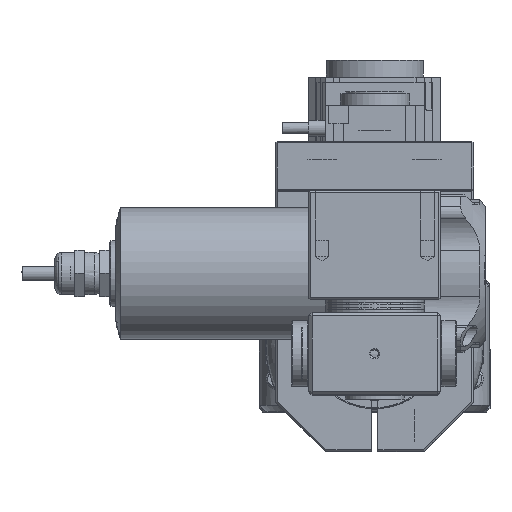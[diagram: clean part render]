
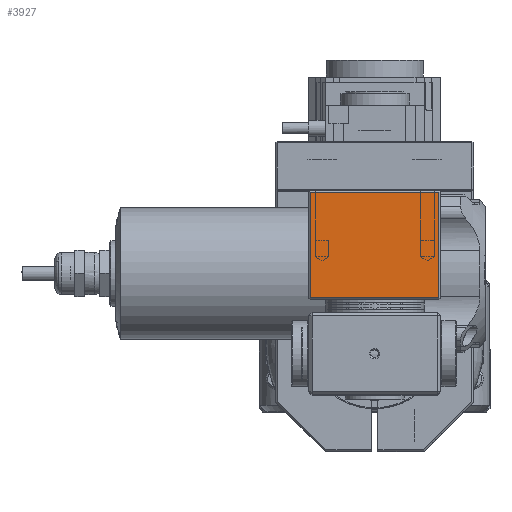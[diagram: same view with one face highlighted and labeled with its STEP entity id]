
A CAD part, top view. The second image highlights one B-rep face of the part: STEP entity #3927.
In plain terms, the highlighted planar face has unit normal (0, 0, 1) as drawn and (1, 0, 0) by its records, which use the part's own axes.
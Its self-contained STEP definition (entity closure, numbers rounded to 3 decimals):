
#3927 = ADVANCED_FACE( '', ( #7667 ), #7668, .F. );
#7667 = FACE_OUTER_BOUND( '', #12523, .T. );
#7668 = PLANE( '', #12524 );
#12523 = EDGE_LOOP( '', ( #22777, #22778, #22779, #22780 ) );
#12524 = AXIS2_PLACEMENT_3D( '', #22781, #22782, #22783 );
#22777 = ORIENTED_EDGE( '', *, *, #25108, .T. );
#22778 = ORIENTED_EDGE( '', *, *, #25737, .T. );
#22779 = ORIENTED_EDGE( '', *, *, #26820, .T. );
#22780 = ORIENTED_EDGE( '', *, *, #27448, .T. );
#22781 = CARTESIAN_POINT( '', ( 20., -20., 33. ) );
#22782 = DIRECTION( '', ( -1., 0., 0. ) );
#22783 = DIRECTION( '', ( 0., 0., 1. ) );
#25108 = EDGE_CURVE( '', #29204, #30669, #30671, .T. );
#25737 = EDGE_CURVE( '', #30669, #31709, #31711, .T. );
#26820 = EDGE_CURVE( '', #31709, #32531, #33318, .T. );
#27448 = EDGE_CURVE( '', #32531, #29204, #34270, .T. );
#29204 = VERTEX_POINT( '', #35295 );
#30669 = VERTEX_POINT( '', #38669 );
#30671 = LINE( '', #38672, #38673 );
#31709 = VERTEX_POINT( '', #42062 );
#31711 = LINE( '', #42065, #42066 );
#32531 = VERTEX_POINT( '', #43891 );
#33318 = LINE( '', #45711, #45712 );
#34270 = LINE( '', #49643, #49644 );
#35295 = CARTESIAN_POINT( '', ( 20., -19.5, 32.5 ) );
#38669 = CARTESIAN_POINT( '', ( 20., -19.5, 0.5 ) );
#38672 = CARTESIAN_POINT( '', ( 20., -19.5, 33. ) );
#38673 = VECTOR( '', #54132, 1000. );
#42062 = CARTESIAN_POINT( '', ( 20., 19.5, 0.5 ) );
#42065 = CARTESIAN_POINT( '', ( 20., -20., 0.5 ) );
#42066 = VECTOR( '', #54799, 1000. );
#43891 = CARTESIAN_POINT( '', ( 20., 19.5, 32.5 ) );
#45711 = CARTESIAN_POINT( '', ( 20., 19.5, 33. ) );
#45712 = VECTOR( '', #55781, 1000. );
#49643 = CARTESIAN_POINT( '', ( 20., -20., 32.5 ) );
#49644 = VECTOR( '', #56193, 1000. );
#54132 = DIRECTION( '', ( 0., 0., -1. ) );
#54799 = DIRECTION( '', ( 0., 1., 0. ) );
#55781 = DIRECTION( '', ( 0., 0., 1. ) );
#56193 = DIRECTION( '', ( 0., -1., 0. ) );
